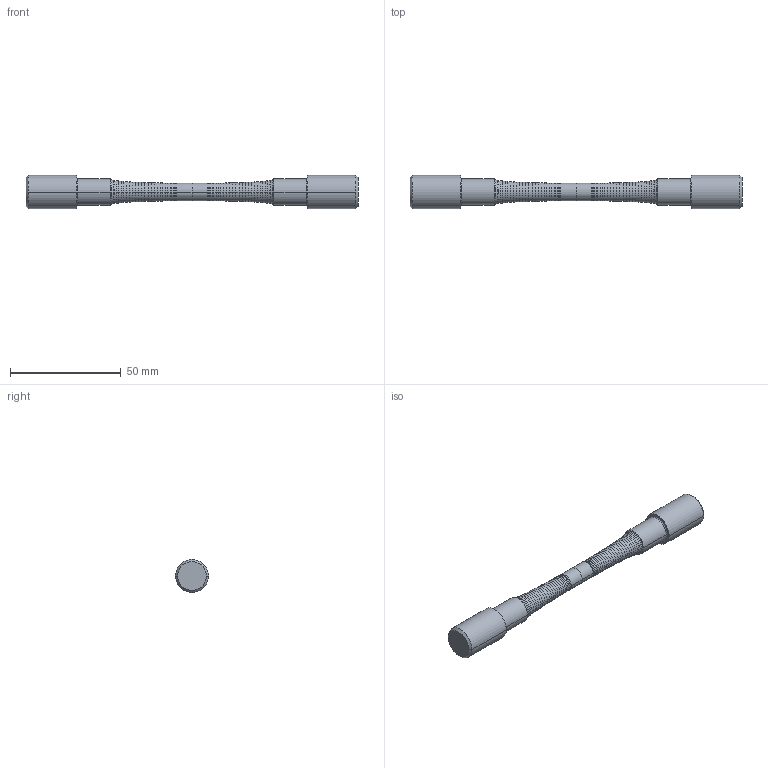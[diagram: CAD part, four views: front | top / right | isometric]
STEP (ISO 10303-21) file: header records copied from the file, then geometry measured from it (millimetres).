
FILE_DESCRIPTION(/* description */ ('VariCAD 2008 3.01 AP-203'),/* implementation_level */ '2;1');
FILE_NAME(/* name */ 'tensile-rod',/* time_stamp */ '2008-11-10T21:01:22+01:00',/* author */ (''),/* organization */ (''),/* preprocessor_version */ 'ST-DEVELOPER v12',/* originating_system */ 'VariCAD 2008 3.01; kernel version (20080715)',/* authorisation */ '');
FILE_SCHEMA (('CONFIG_CONTROL_DESIGN'));
Length unit declared in the file: millimetre
Products named in the file (1): Part
Bounding box: 150 x 15 x 15 mm (x, y, z)
Volume: 15891.9 mm3; surface area: 5743.8 mm2
Topology: 1 solids, 1 shells, 148 faces, 294 edges, 150 vertices
Faces by surface type: cone 126, cylinder 14, torus 4, plane 4
Entity records: 3754 total; most frequent: DIRECTION 748, CARTESIAN_POINT 594, ORIENTED_EDGE 588, AXIS2_PLACEMENT_3D 304, EDGE_CURVE 294, CIRCLE 154, EDGE_LOOP 150, VERTEX_POINT 150
